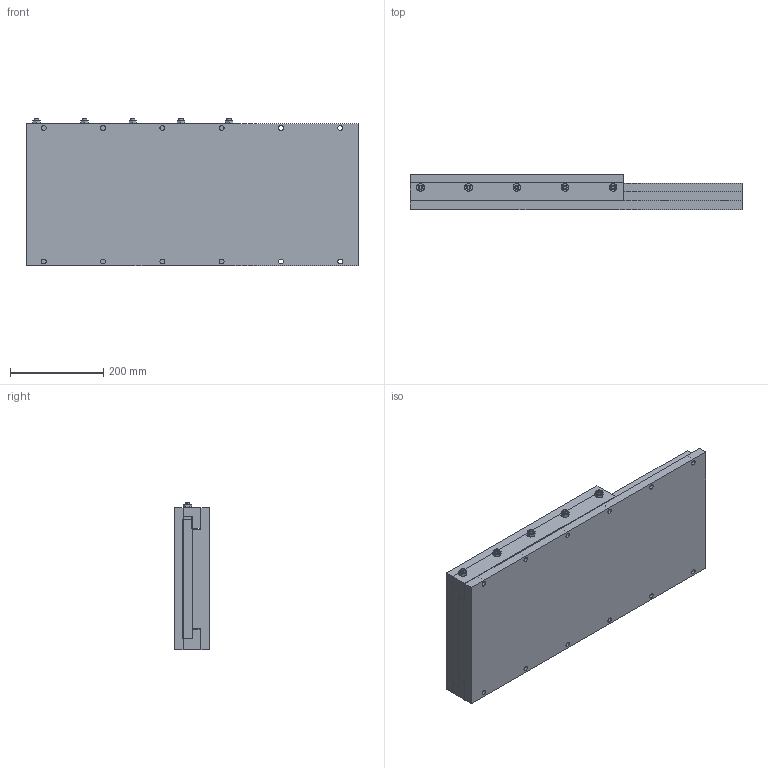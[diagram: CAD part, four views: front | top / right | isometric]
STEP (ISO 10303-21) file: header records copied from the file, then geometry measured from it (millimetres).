
FILE_DESCRIPTION (( 'STEP AP214' ), '1' );
FILE_NAME ('SW12-SL18-BL28.STEP', '2010-10-04T18:03:48', ( ' ' ), ( '' ), 'SwSTEP 2.0', 'SolidWorks 2010', '' );
FILE_SCHEMA (( 'AUTOMOTIVE_DESIGN' ));
Length unit declared in the file: inch
Products named in the file (11): Gen2 Baseplate_12x28 BASE; Gen2 BASE_12x28 BASE; Gen2 Hardplate_12x28 HPLATE; Gen2 SADDLE_12x18 SADDLE; Gen2 Top plate_12x18 TPLATE; Gen2 Adj Gib_12x18 ADJ GIB; Gen2 Gib_12x18 GIB; Gen2 Bar_12x18 BAR; _MSHXNUT_MSHXNUT 0.375-24-D-N; _SSCUPSOC_SSCUPSKT 0.375-24x1.25-HX-N; SW12-SL18-BL28
Assembly tree (18 placements, depth 3):
  SW12-SL18-BL28
    Gen2 SADDLE_12x18 SADDLE
      _SSCUPSOC_SSCUPSKT 0.375-24x1.25-HX-N  x5
      _MSHXNUT_MSHXNUT 0.375-24-D-N  x5
      Gen2 Gib_12x18 GIB
      Gen2 Adj Gib_12x18 ADJ GIB
      Gen2 Bar_12x18 BAR
      Gen2 Top plate_12x18 TPLATE
    Gen2 BASE_12x28 BASE
      Gen2 Hardplate_12x28 HPLATE
      Gen2 Baseplate_12x28 BASE
Bounding box: 711.2 x 76.2 x 316.71 mm (x, y, z)
Volume: 14230955 mm3; surface area: 1726130.5 mm2
Topology: 21 solids, 21 shells, 395 faces, 888 edges, 547 vertices
Faces by surface type: plane 175, cone 110, cylinder 110
Entity records: 7271 total; most frequent: CARTESIAN_POINT 1207, DIRECTION 1152, ORIENTED_EDGE 1004, EDGE_CURVE 502, AXIS2_PLACEMENT_3D 432, VERTEX_POINT 327, LINE 288, VECTOR 288
